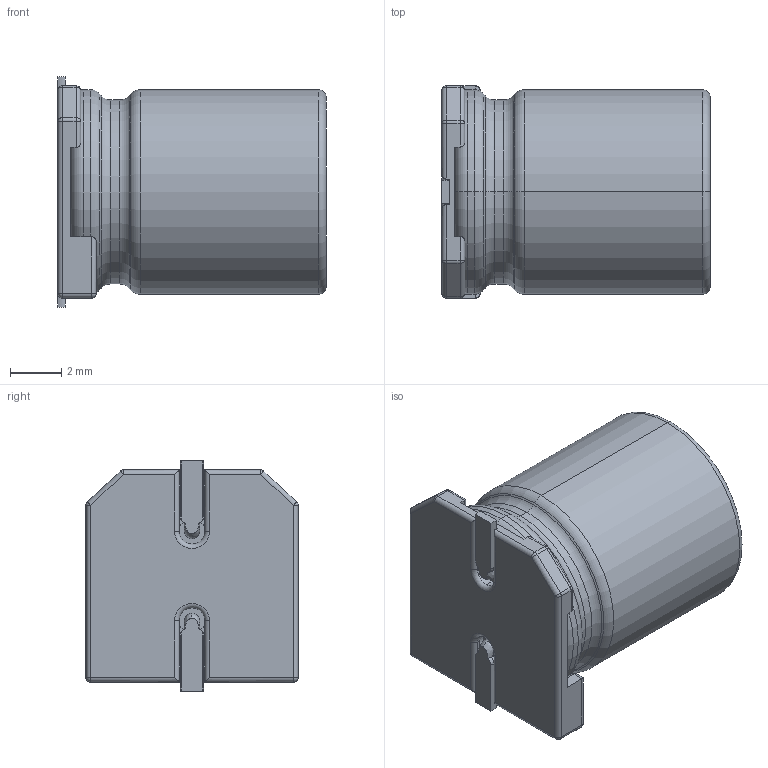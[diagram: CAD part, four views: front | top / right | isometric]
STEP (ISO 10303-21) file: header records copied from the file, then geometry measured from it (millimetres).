
FILE_DESCRIPTION((''),'2;1');
FILE_NAME('LIQUIDSMD8X105_ASM','2020-06-03T',('xy'),(''),'PRO/ENGINEER BY PARAMETRIC TECHNOLOGY CORPORATION, 2009380','PRO/ENGINEER BY PARAMETRIC TECHNOLOGY CORPORATION, 2009380','');
FILE_SCHEMA(('CONFIG_CONTROL_DESIGN'));
Length unit declared in the file: millimetre
Products named in the file (3): LIQUIDSMD8X105; ZB8A; LIQUIDSMD8X105_ASM
Assembly tree (2 placements, depth 2):
  LIQUIDSMD8X105_ASM
    LIQUIDSMD8X105
    ZB8A
Bounding box: 10.5 x 8.3 x 9 mm (x, y, z)
Volume: 526.4 mm3; surface area: 532 mm2
Topology: 2 solids, 2 shells, 294 faces, 730 edges, 448 vertices
Faces by surface type: plane 168, cylinder 69, torus 21, sphere 20, bspline 12, cone 4
Entity records: 9076 total; most frequent: CARTESIAN_POINT 2005, DIRECTION 1456, ORIENTED_EDGE 1452, EDGE_CURVE 726, VECTOR 518, LINE 518, AXIS2_PLACEMENT_3D 469, VERTEX_POINT 448
